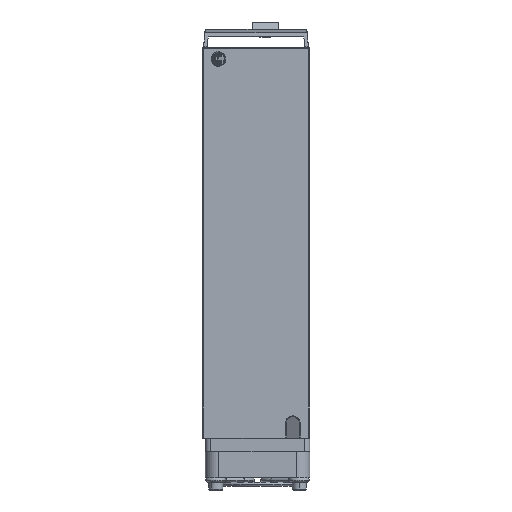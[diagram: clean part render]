
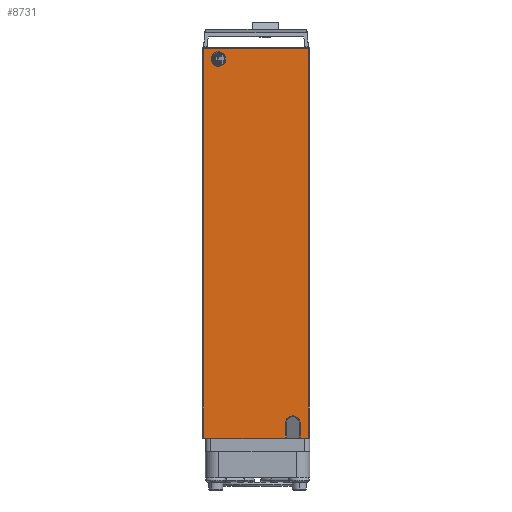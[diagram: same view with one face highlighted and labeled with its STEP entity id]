
A CAD part, left-side view. The second image highlights one B-rep face of the part: STEP entity #8731.
In plain terms, the highlighted planar face has unit normal (-1, 0, 0).
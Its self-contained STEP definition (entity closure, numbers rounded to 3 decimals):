
#3659 = CARTESIAN_POINT ( 'NONE',  ( -86.537, 25.589, 223.445 ) ) ;
#3931 = EDGE_CURVE ( 'NONE', #126881, #103732, #34410, .T. ) ;
#5066 = ORIENTED_EDGE ( 'NONE', *, *, #37550, .F. ) ;
#8731 = ADVANCED_FACE ( 'NONE', ( #111562, #31192 ), #64798, .F. ) ;
#14696 = CARTESIAN_POINT ( 'NONE',  ( -86.537, 25.589, 223.445 ) ) ;
#15059 = CARTESIAN_POINT ( 'NONE',  ( -86.537, 19.989, 223.445 ) ) ;
#15115 = DIRECTION ( 'NONE',  ( 0., 0., 1. ) ) ;
#17226 = CARTESIAN_POINT ( 'NONE',  ( -86.537, -8.511, 83.945 ) ) ;
#17359 = ORIENTED_EDGE ( 'NONE', *, *, #21145, .F. ) ;
#18472 = CARTESIAN_POINT ( 'NONE',  ( -86.537, -11.911, 78.245 ) ) ;
#21145 = EDGE_CURVE ( 'NONE', #102325, #53758, #123016, .T. ) ;
#21226 = AXIS2_PLACEMENT_3D ( 'NONE', #86359, #23541, #96857 ) ;
#23342 =( BOUNDED_CURVE ( )  B_SPLINE_CURVE ( 3, ( #3659, #87571, #35269, #108573 ),
 .UNSPECIFIED., .F., .F. ) 
 B_SPLINE_CURVE_WITH_KNOTS ( ( 4, 4 ),
 ( 0., 1. ),
 .UNSPECIFIED. ) 
 CURVE ( )  GEOMETRIC_REPRESENTATION_ITEM ( )  RATIONAL_B_SPLINE_CURVE ( ( 1., 0.333, 0.333, 1. ) ) 
 REPRESENTATION_ITEM ( '' )  );
#23541 = DIRECTION ( 'NONE',  ( 1., 0., 0. ) ) ;
#25421 = VERTEX_POINT ( 'NONE', #117228 ) ;
#25599 = CARTESIAN_POINT ( 'NONE',  ( -86.537, 25.589, 223.445 ) ) ;
#26090 = LINE ( 'NONE', #82032, #50662 ) ;
#27393 = EDGE_CURVE ( 'NONE', #126283, #81040, #57216, .T. ) ;
#30637 = LINE ( 'NONE', #70782, #110999 ) ;
#31192 = FACE_OUTER_BOUND ( 'NONE', #92573, .T. ) ;
#31749 = CARTESIAN_POINT ( 'NONE',  ( -86.537, -11.911, 227.945 ) ) ;
#33866 = CARTESIAN_POINT ( 'NONE',  ( -86.537, -2.911, 227.945 ) ) ;
#34410 = LINE ( 'NONE', #67245, #114794 ) ;
#35269 = CARTESIAN_POINT ( 'NONE',  ( -86.537, 19.989, 217.845 ) ) ;
#37378 = ORIENTED_EDGE ( 'NONE', *, *, #99473, .F. ) ;
#37550 = EDGE_CURVE ( 'NONE', #81040, #126283, #23342, .T. ) ;
#40738 = DIRECTION ( 'NONE',  ( 0., -1., 0. ) ) ;
#41781 = CARTESIAN_POINT ( 'NONE',  ( -86.537, -8.511, 227.945 ) ) ;
#42309 = DIRECTION ( 'NONE',  ( 0., 0., -1. ) ) ;
#42842 = EDGE_CURVE ( 'NONE', #129466, #126881, #117793, .T. ) ;
#46077 = LINE ( 'NONE', #41781, #98578 ) ;
#48360 = VECTOR ( 'NONE', #107173, 1000. ) ;
#48640 = CARTESIAN_POINT ( 'NONE',  ( -86.537, -8.511, 83.945 ) ) ;
#48822 = CARTESIAN_POINT ( 'NONE',  ( -86.537, -2.911, 83.945 ) ) ;
#50662 = VECTOR ( 'NONE', #40738, 1000. ) ;
#52328 = DIRECTION ( 'NONE',  ( 0., 0., 1. ) ) ;
#53758 = VERTEX_POINT ( 'NONE', #65384 ) ;
#54269 = ORIENTED_EDGE ( 'NONE', *, *, #80310, .F. ) ;
#57216 =( BOUNDED_CURVE ( )  B_SPLINE_CURVE ( 3, ( #15059, #67270, #130174, #25599 ),
 .UNSPECIFIED., .F., .F. ) 
 B_SPLINE_CURVE_WITH_KNOTS ( ( 4, 4 ),
 ( 0., 1. ),
 .UNSPECIFIED. ) 
 CURVE ( )  GEOMETRIC_REPRESENTATION_ITEM ( )  RATIONAL_B_SPLINE_CURVE ( ( 1., 0.333, 0.333, 1. ) ) 
 REPRESENTATION_ITEM ( '' )  );
#57623 = CARTESIAN_POINT ( 'NONE',  ( -86.537, 19.989, 223.445 ) ) ;
#60469 = CARTESIAN_POINT ( 'NONE',  ( -86.537, -11.911, 227.645 ) ) ;
#61588 = ORIENTED_EDGE ( 'NONE', *, *, #3931, .F. ) ;
#64798 = PLANE ( 'NONE',  #21226 ) ;
#65384 = CARTESIAN_POINT ( 'NONE',  ( -86.537, 28.489, 227.645 ) ) ;
#67245 = CARTESIAN_POINT ( 'NONE',  ( -86.537, 28.789, 78.245 ) ) ;
#67270 = CARTESIAN_POINT ( 'NONE',  ( -86.537, 19.989, 229.045 ) ) ;
#67336 = CARTESIAN_POINT ( 'NONE',  ( -86.537, 28.489, 227.945 ) ) ;
#67723 = EDGE_CURVE ( 'NONE', #103732, #91751, #46077, .T. ) ;
#70782 = CARTESIAN_POINT ( 'NONE',  ( -86.537, 28.789, 78.245 ) ) ;
#70985 = ORIENTED_EDGE ( 'NONE', *, *, #117027, .F. ) ;
#80310 = EDGE_CURVE ( 'NONE', #25421, #102325, #30637, .T. ) ;
#81040 = VERTEX_POINT ( 'NONE', #14696 ) ;
#82032 = CARTESIAN_POINT ( 'NONE',  ( -86.537, 8.289, 227.645 ) ) ;
#86359 = CARTESIAN_POINT ( 'NONE',  ( -86.537, 28.789, 227.945 ) ) ;
#86624 = VECTOR ( 'NONE', #42309, 1000. ) ;
#87571 = CARTESIAN_POINT ( 'NONE',  ( -86.537, 25.589, 217.845 ) ) ;
#88285 =( BOUNDED_CURVE ( )  B_SPLINE_CURVE ( 3, ( #17226, #132307, #111558, #48822 ),
 .UNSPECIFIED., .F., .F. ) 
 B_SPLINE_CURVE_WITH_KNOTS ( ( 4, 4 ),
 ( 0., 1. ),
 .UNSPECIFIED. ) 
 CURVE ( )  GEOMETRIC_REPRESENTATION_ITEM ( )  RATIONAL_B_SPLINE_CURVE ( ( 1., 0.333, 0.333, 1. ) ) 
 REPRESENTATION_ITEM ( '' )  );
#91751 = VERTEX_POINT ( 'NONE', #48640 ) ;
#92421 = DIRECTION ( 'NONE',  ( 0., 1., 0. ) ) ;
#92573 = EDGE_LOOP ( 'NONE', ( #17359, #54269, #125383, #37378, #117765, #61588, #94919, #70985 ) ) ;
#94919 = ORIENTED_EDGE ( 'NONE', *, *, #42842, .F. ) ;
#95098 = VECTOR ( 'NONE', #15115, 1000. ) ;
#96857 = DIRECTION ( 'NONE',  ( 0., 1., 0. ) ) ;
#98578 = VECTOR ( 'NONE', #52328, 1000. ) ;
#99473 = EDGE_CURVE ( 'NONE', #91751, #128936, #88285, .T. ) ;
#102310 = CARTESIAN_POINT ( 'NONE',  ( -86.537, -2.911, 83.945 ) ) ;
#102325 = VERTEX_POINT ( 'NONE', #134496 ) ;
#103732 = VERTEX_POINT ( 'NONE', #122781 ) ;
#107173 = DIRECTION ( 'NONE',  ( 0., 0., -1. ) ) ;
#108573 = CARTESIAN_POINT ( 'NONE',  ( -86.537, 19.989, 223.445 ) ) ;
#110999 = VECTOR ( 'NONE', #92421, 1000. ) ;
#111558 = CARTESIAN_POINT ( 'NONE',  ( -86.537, -2.911, 89.545 ) ) ;
#111562 = FACE_BOUND ( 'NONE', #120709, .T. ) ;
#114794 = VECTOR ( 'NONE', #130131, 1000. ) ;
#117027 = EDGE_CURVE ( 'NONE', #53758, #129466, #26090, .T. ) ;
#117228 = CARTESIAN_POINT ( 'NONE',  ( -86.537, -2.911, 78.245 ) ) ;
#117765 = ORIENTED_EDGE ( 'NONE', *, *, #67723, .F. ) ;
#117793 = LINE ( 'NONE', #31749, #86624 ) ;
#120368 = EDGE_CURVE ( 'NONE', #128936, #25421, #128753, .T. ) ;
#120709 = EDGE_LOOP ( 'NONE', ( #5066, #121674 ) ) ;
#121674 = ORIENTED_EDGE ( 'NONE', *, *, #27393, .F. ) ;
#122781 = CARTESIAN_POINT ( 'NONE',  ( -86.537, -8.511, 78.245 ) ) ;
#123016 = LINE ( 'NONE', #67336, #95098 ) ;
#125383 = ORIENTED_EDGE ( 'NONE', *, *, #120368, .F. ) ;
#126283 = VERTEX_POINT ( 'NONE', #57623 ) ;
#126881 = VERTEX_POINT ( 'NONE', #18472 ) ;
#128753 = LINE ( 'NONE', #33866, #48360 ) ;
#128936 = VERTEX_POINT ( 'NONE', #102310 ) ;
#129466 = VERTEX_POINT ( 'NONE', #60469 ) ;
#130131 = DIRECTION ( 'NONE',  ( 0., 1., 0. ) ) ;
#130174 = CARTESIAN_POINT ( 'NONE',  ( -86.537, 25.589, 229.045 ) ) ;
#132307 = CARTESIAN_POINT ( 'NONE',  ( -86.537, -8.511, 89.545 ) ) ;
#134496 = CARTESIAN_POINT ( 'NONE',  ( -86.537, 28.489, 78.245 ) ) ;
